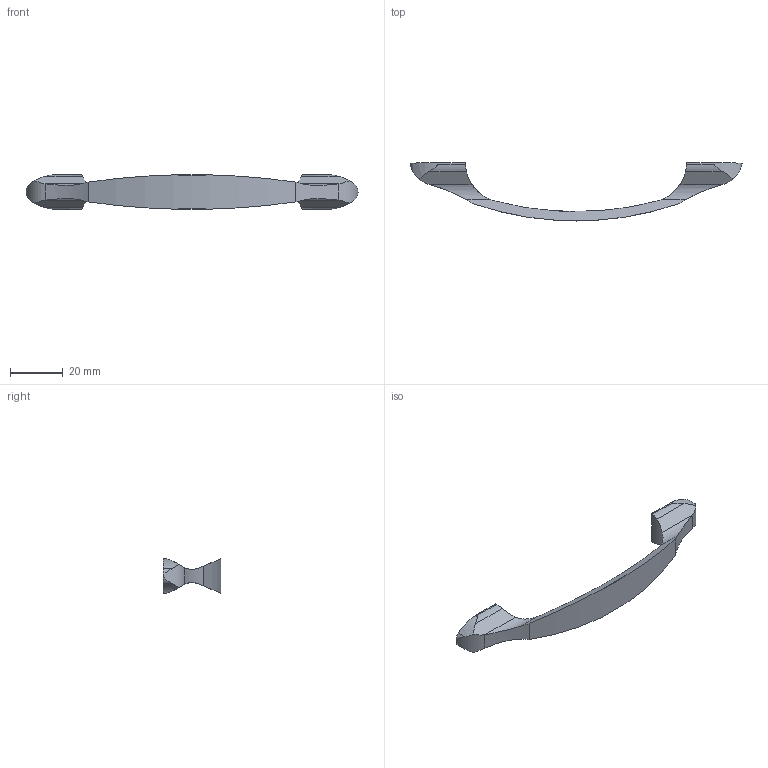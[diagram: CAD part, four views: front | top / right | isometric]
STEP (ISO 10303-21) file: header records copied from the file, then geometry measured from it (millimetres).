
FILE_DESCRIPTION( ( '' ), '1' );
FILE_NAME( 'C:/Documents and Settings/Sachin/Desktop/Sheet 10_1/stp/9113225.stp', '2013-10-22T12:26:52', ( '' ), ( '' ), ' ', ' ', ' ' );
FILE_SCHEMA( ( 'CONFIG_CONTROL_DESIGN' ) );
Length unit declared in the file: millimetre
Products named in the file (1): 1
Bounding box: 126 x 22 x 13 mm (x, y, z)
Volume: 6366 mm3; surface area: 4325.1 mm2
Topology: 1 solids, 1 shells, 44 faces, 120 edges, 80 vertices
Faces by surface type: cylinder 30, plane 14
Entity records: 1712 total; most frequent: CARTESIAN_POINT 567, ORIENTED_EDGE 240, DIRECTION 224, EDGE_CURVE 120, AXIS2_PLACEMENT_3D 91, VERTEX_POINT 80, EDGE_LOOP 46, ADVANCED_FACE 44
